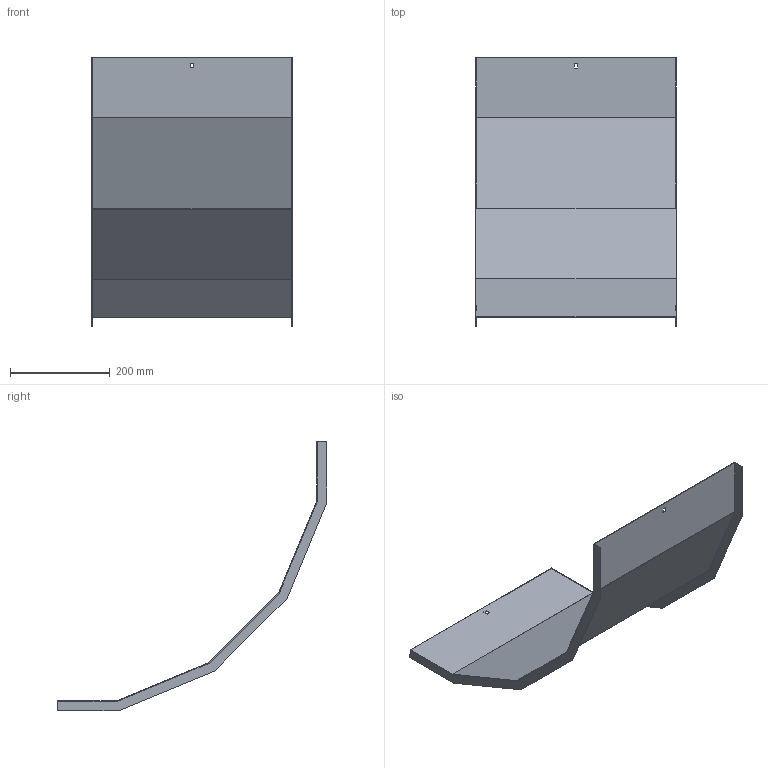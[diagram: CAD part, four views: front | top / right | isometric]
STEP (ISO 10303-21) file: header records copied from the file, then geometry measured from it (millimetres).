
FILE_DESCRIPTION (( 'STEP AP214' ), '1' );
FILE_NAME ('30N5R400_H150.step', '2025-02-21T14:29:37', ( '' ), ( '' ), 'SwSTEP 2.0', 'SolidWorks 2023', '' );
FILE_SCHEMA (( 'AUTOMOTIVE_DESIGN' ));
Length unit declared in the file: millimetre
Products named in the file (1): 30N5R400_H150
Bounding box: 403 x 540.72 x 540.72 mm (x, y, z)
Volume: 553915.4 mm3; surface area: 742569.7 mm2
Topology: 1 solids, 1 shells, 34 faces, 96 edges, 64 vertices
Faces by surface type: plane 34
Entity records: 1111 total; most frequent: CARTESIAN_POINT 195, ORIENTED_EDGE 192, DIRECTION 166, VECTOR 96, EDGE_CURVE 96, LINE 96, VERTEX_POINT 64, EDGE_LOOP 38
